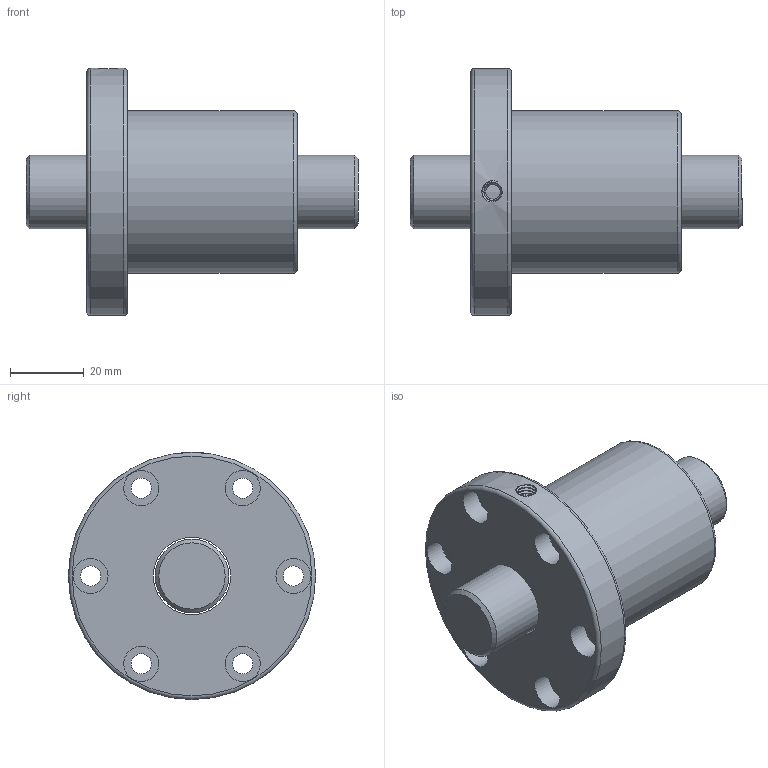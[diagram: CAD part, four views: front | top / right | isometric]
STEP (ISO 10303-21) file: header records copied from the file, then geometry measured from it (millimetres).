
FILE_DESCRIPTION (( 'STEP AP203' ), '1' );
FILE_NAME ('SFV02005-4.8.STEP', '2023-08-16T02:33:05', ( '' ), ( '' ), 'SwSTEP 2.0', 'SolidWorks 2022', '' );
FILE_SCHEMA (( 'CONFIG_CONTROL_DESIGN' ));
Length unit declared in the file: millimetre
Products named in the file (1): SFV02005-4.8
Bounding box: 90 x 67 x 67 mm (x, y, z)
Volume: 113567.4 mm3; surface area: 26405.1 mm2
Topology: 2 solids, 2 shells, 39 faces, 82 edges, 54 vertices
Faces by surface type: cylinder 19, plane 12, cone 3, torus 3, bspline 2
Full cylindrical faces by diameter (mm): 4 x1, 5.5 x6, 9.5 x6, 20 x1, 21 x1, 44 x1, 67 x1
Entity records: 2968 total; most frequent: CARTESIAN_POINT 2151, DIRECTION 158, ORIENTED_EDGE 104, EDGE_LOOP 85, AXIS2_PLACEMENT_3D 79, FACE_OUTER_BOUND 59, EDGE_CURVE 52, VERTEX_POINT 47
